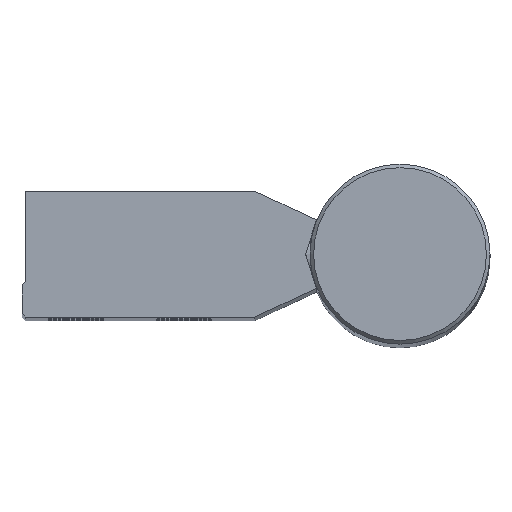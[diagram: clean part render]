
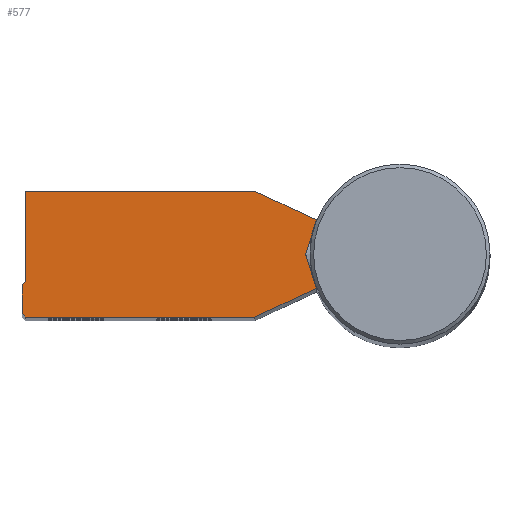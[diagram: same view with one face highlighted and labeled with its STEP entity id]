
A CAD part, top view. The second image highlights one B-rep face of the part: STEP entity #577.
In plain terms, the highlighted planar face has unit normal (0, 0, 1).
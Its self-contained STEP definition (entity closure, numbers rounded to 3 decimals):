
#577=ADVANCED_FACE('',(#860),#861,.F.);
#860=FACE_OUTER_BOUND('',#1206,.T.);
#861=PLANE('',#1207);
#1206=EDGE_LOOP('',(#1826,#1827,#1828,#1829,#1830,#1831,#1832,#1833,#1834,#1835));
#1207=AXIS2_PLACEMENT_3D('',#1836,#1837,#1838);
#1826=ORIENTED_EDGE('',*,*,#2205,.F.);
#1827=ORIENTED_EDGE('',*,*,#2206,.F.);
#1828=ORIENTED_EDGE('',*,*,#2207,.F.);
#1829=ORIENTED_EDGE('',*,*,#2208,.F.);
#1830=ORIENTED_EDGE('',*,*,#2209,.F.);
#1831=ORIENTED_EDGE('',*,*,#2210,.F.);
#1832=ORIENTED_EDGE('',*,*,#2155,.F.);
#1833=ORIENTED_EDGE('',*,*,#2134,.F.);
#1834=ORIENTED_EDGE('',*,*,#2150,.F.);
#1835=ORIENTED_EDGE('',*,*,#2139,.F.);
#1836=CARTESIAN_POINT('',(-109.0,-12.5,300.0));
#1837=DIRECTION('',(0.0,0.0,-1.0));
#1838=DIRECTION('',(-1.0,0.0,0.0));
#2134=EDGE_CURVE('',#2392,#2394,#2395,.T.);
#2139=EDGE_CURVE('',#2401,#2403,#2404,.T.);
#2150=EDGE_CURVE('',#2403,#2392,#2422,.T.);
#2155=EDGE_CURVE('',#2394,#2431,#2432,.T.);
#2205=EDGE_CURVE('',#2524,#2401,#2525,.T.);
#2206=EDGE_CURVE('',#2526,#2524,#2527,.T.);
#2207=EDGE_CURVE('',#2528,#2526,#2529,.T.);
#2208=EDGE_CURVE('',#2530,#2528,#2531,.T.);
#2209=EDGE_CURVE('',#2532,#2530,#2533,.T.);
#2210=EDGE_CURVE('',#2431,#2532,#2534,.T.);
#2392=VERTEX_POINT('',#3558);
#2394=VERTEX_POINT('',#3561);
#2395=LINE('',#3562,#3563);
#2401=VERTEX_POINT('',#3572);
#2403=VERTEX_POINT('',#3575);
#2404=LINE('',#3576,#3577);
#2422=LINE('',#3599,#3600);
#2431=VERTEX_POINT('',#3610);
#2432=LINE('',#3611,#3612);
#2524=VERTEX_POINT('',#3705);
#2525=LINE('',#3706,#3707);
#2526=VERTEX_POINT('',#3708);
#2527=LINE('',#3709,#3710);
#2528=VERTEX_POINT('',#3711);
#2529=LINE('',#3712,#3713);
#2530=VERTEX_POINT('',#3714);
#2531=LINE('',#3715,#3716);
#2532=VERTEX_POINT('',#3717);
#2533=LINE('',#3718,#3719);
#2534=LINE('',#3720,#3721);
#3558=CARTESIAN_POINT('',(-104.0,-7.5,300.0));
#3561=CARTESIAN_POINT('',(-104.0,17.5,300.0));
#3562=CARTESIAN_POINT('',(-104.0,-7.5,300.0));
#3563=VECTOR('',#3939,1.0);
#3572=CARTESIAN_POINT('',(-105.0,-16.5,300.0));
#3575=CARTESIAN_POINT('',(-105.0,-8.5,300.0));
#3576=CARTESIAN_POINT('',(-105.0,-16.5,300.0));
#3577=VECTOR('',#3944,1.0);
#3599=CARTESIAN_POINT('',(-105.0,-8.5,300.0));
#3600=VECTOR('',#3967,1.0);
#3610=CARTESIAN_POINT('',(-40.374,17.5,300.0));
#3611=CARTESIAN_POINT('',(-104.0,17.5,300.0));
#3612=VECTOR('',#3978,1.0);
#3705=CARTESIAN_POINT('',(-104.0,-17.5,300.0));
#3706=CARTESIAN_POINT('',(-104.0,-17.5,300.0));
#3707=VECTOR('',#4124,1.0);
#3708=CARTESIAN_POINT('',(-40.374,-17.5,300.0));
#3709=CARTESIAN_POINT('',(-40.374,-17.5,300.0));
#3710=VECTOR('',#4125,1.0);
#3711=CARTESIAN_POINT('',(-23.218,-9.5,300.0));
#3712=CARTESIAN_POINT('',(-23.218,-9.5,300.0));
#3713=VECTOR('',#4126,1.0);
#3714=CARTESIAN_POINT('',(-26.213,0.0,300.0));
#3715=CARTESIAN_POINT('',(-26.213,0.0,300.0));
#3716=VECTOR('',#4127,1.0);
#3717=CARTESIAN_POINT('',(-23.218,9.5,300.0));
#3718=CARTESIAN_POINT('',(-23.218,9.5,300.0));
#3719=VECTOR('',#4128,1.0);
#3720=CARTESIAN_POINT('',(-40.374,17.5,300.0));
#3721=VECTOR('',#4129,1.0);
#3939=DIRECTION('',(0.0,1.0,0.0));
#3944=DIRECTION('',(0.0,1.0,0.0));
#3967=DIRECTION('',(0.707,0.707,0.0));
#3978=DIRECTION('',(1.0,0.0,0.0));
#4124=DIRECTION('',(-0.707,0.707,0.0));
#4125=DIRECTION('',(-1.0,0.0,0.0));
#4126=DIRECTION('',(-0.906,-0.423,0.0));
#4127=DIRECTION('',(0.301,-0.954,0.0));
#4128=DIRECTION('',(-0.301,-0.954,0.0));
#4129=DIRECTION('',(0.906,-0.423,0.0));
